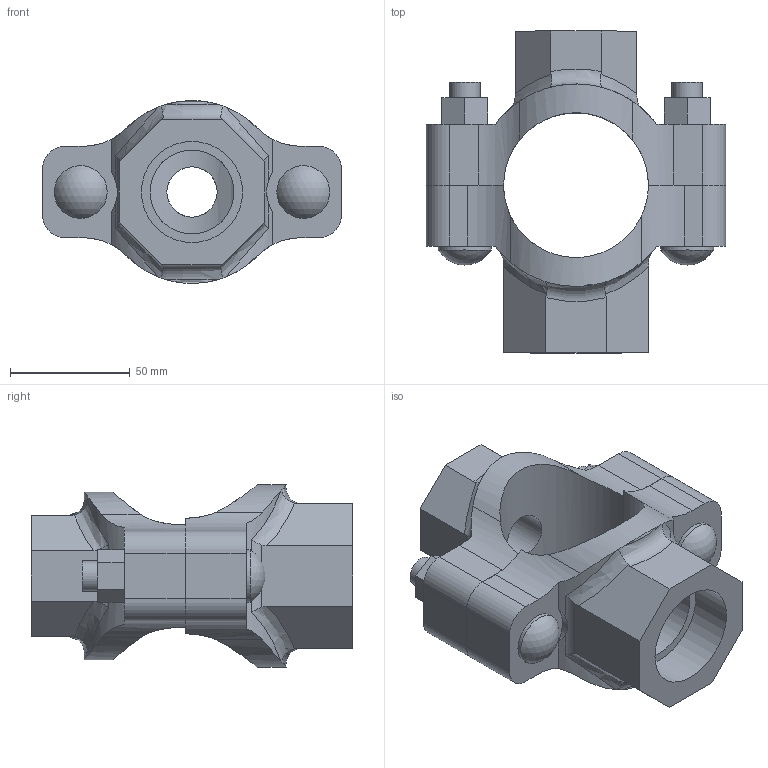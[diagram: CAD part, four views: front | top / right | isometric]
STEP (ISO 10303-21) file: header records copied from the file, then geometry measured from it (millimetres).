
FILE_DESCRIPTION(/* description */ ('VIC MECH-T BRANCH OUTLET CROSS STYLE 920N (THD)','CAx-IF Rec.Pracs.---Representation and Presentation of Product Manufacturing Information (PMI)---4.0---2014-10-13'),/* implementation_level */ '2;1');
FILE_NAME(/* name */ 'C:\Users\Vjadhav\AppData\Roaming\Autodesk\ApplicationPlugins\Back Up\Victaulic_IPS_Mechanical-Cross Outlet_Style 920N (FPT)\Victaulic_IPS_Mechanical-Cross Outlet_02.0x0.75x01.25 (50x20x32).stp',/* time_stamp */ '2020-08-06T18:56:00+05:00',/* author */ ('Vjadhav'),/* organization */ ('Victaulic'),/* preprocessor_version */ 'ST-DEVELOPER v17.2',/* originating_system */ 'Autodesk Inventor 2019',/* authorisation */ '');
FILE_SCHEMA (('AP242_MANAGED_MODEL_BASED_3D_ENGINEERING_MIM_LF { 1 0 10303 442 1 1 4 }'));
Length unit declared in the file: inch
Products named in the file (3): 920NT-02.0x0.75x01.25; 920NT-02.0x0.75; 920NT-02.0x01.25
Assembly tree (2 placements, depth 2):
  920NT-02.0x0.75x01.25
    920NT-02.0x0.75
    920NT-02.0x01.25
Bounding box: 124.71 x 134.11 x 76.17 mm (x, y, z)
Volume: 319645.7 mm3; surface area: 71246.6 mm2
Topology: 2 solids, 2 shells, 137 faces, 368 edges, 248 vertices
Faces by surface type: plane 68, cylinder 55, bspline 8, torus 4, sphere 2
Full cylindrical faces by diameter (mm): 12.7 x4, 20.93 x1, 21.982 x2, 26.67 x1, 34.925 x1, 42.164 x1
Entity records: 5290 total; most frequent: CARTESIAN_POINT 1651, ORIENTED_EDGE 736, DIRECTION 660, EDGE_CURVE 368, VERTEX_POINT 248, AXIS2_PLACEMENT_3D 236, LINE 188, VECTOR 188
